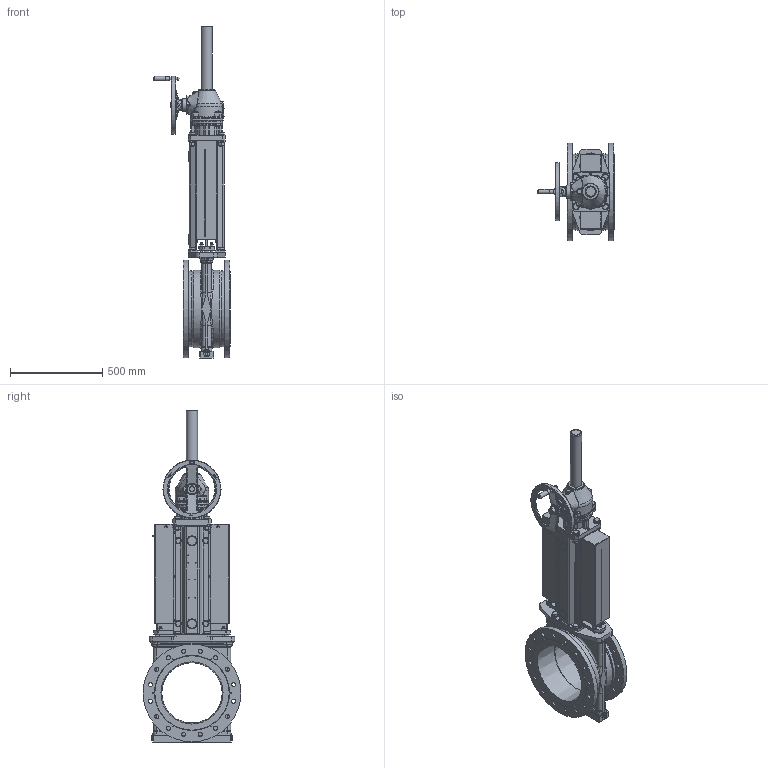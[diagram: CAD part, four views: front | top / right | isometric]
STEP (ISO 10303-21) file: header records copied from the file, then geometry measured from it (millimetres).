
FILE_DESCRIPTION(/* description */ (''),/* implementation_level */ '2;1');
FILE_NAME(/* name */ 'F:\3D-block färdiga för export\SLV-SLF\DN 350\SFL-DN350-PN10-BG.stp',/* time_stamp */ '2021-06-17T08:47:35+02:00',/* author */ ('MATZET'),/* organization */ (''),/* preprocessor_version */ 'ST-DEVELOPER v18',/* originating_system */ 'Autodesk Inventor 2020',/* authorisation */ '');
FILE_SCHEMA (('AUTOMOTIVE_DESIGN { 1 0 10303 214 3 1 1 }'));
Length unit declared in the file: millimetre
Products named in the file (1): SFL-DN350-PN10-BG
Bounding box: 412.4 x 530 x 1800.2 mm (x, y, z)
Volume: 34833682 mm3; surface area: 4481355.6 mm2
Topology: 1 solids, 1 shells, 2950 faces, 7647 edges, 4838 vertices
Faces by surface type: plane 1272, cylinder 710, bspline 408, cone 298, torus 200, sphere 62
Full cylindrical faces by diameter (mm): 2 x2, 2.459 x8, 3.5 x8, 4 x24, 4.917 x12, 5 x8, 6 x1, 6.647 x4, 7 x12, 8.376 x12, 8.88 x1, 10.106 x8, 12 x10, 13 x8, 14 x4, 14.63 x4, 15 x9, 18 x5, 19 x8, 20 x8, 20.5 x2, 22 x32, 23 x8, 24 x16, 24.117 x2, 25 x1, 26 x4, 28.19 x8, 28.3 x2, 29 x1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
Entity records: 240067 total; most frequent: CARTESIAN_POINT 167774, ORIENTED_EDGE 15026, DIRECTION 14199, EDGE_CURVE 7513, AXIS2_PLACEMENT_3D 5427, VERTEX_POINT 4836, EDGE_LOOP 3427, LINE 3345
